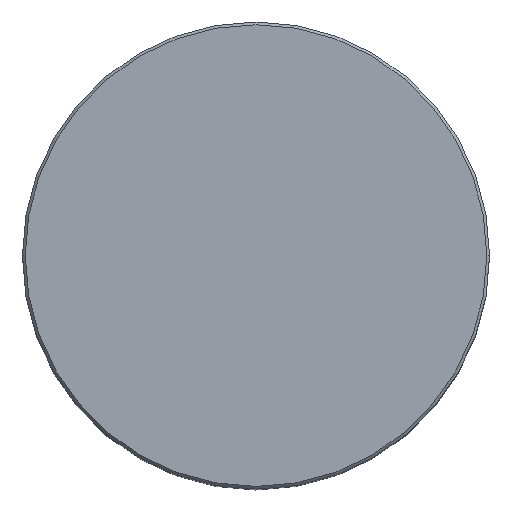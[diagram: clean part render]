
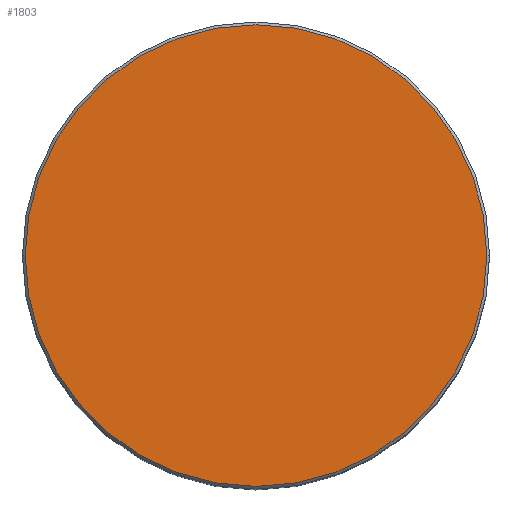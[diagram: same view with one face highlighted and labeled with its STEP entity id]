
A CAD part, top view. The second image highlights one B-rep face of the part: STEP entity #1803.
In plain terms, the highlighted planar face has unit normal (0, 0, 1).
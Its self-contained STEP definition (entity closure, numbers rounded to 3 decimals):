
#125 = CARTESIAN_POINT ( 'NONE',  ( 0., 15.25, -221. ) ) ;
#161 = AXIS2_PLACEMENT_3D ( 'NONE', #125, #713, #882 ) ;
#164 = DIRECTION ( 'NONE',  ( 0., 0., 1. ) ) ;
#172 = DIRECTION ( 'NONE',  ( -1., 0., 0. ) ) ;
#193 = VERTEX_POINT ( 'NONE', #1017 ) ;
#413 = ORIENTED_EDGE ( 'NONE', *, *, #1381, .T. ) ;
#425 = PLANE ( 'NONE',  #161 ) ;
#467 = DIRECTION ( 'NONE',  ( 0., 0., 1. ) ) ;
#632 = CIRCLE ( 'NONE', #1936, 16.8 ) ;
#640 = CARTESIAN_POINT ( 'NONE',  ( 0., 0., -221. ) ) ;
#670 = EDGE_LOOP ( 'NONE', ( #917, #413 ) ) ;
#713 = DIRECTION ( 'NONE',  ( 0., 0., -1. ) ) ;
#882 = DIRECTION ( 'NONE',  ( -1., 0., 0. ) ) ;
#917 = ORIENTED_EDGE ( 'NONE', *, *, #1424, .T. ) ;
#1017 = CARTESIAN_POINT ( 'NONE',  ( -16.8, 0., -221. ) ) ;
#1241 = AXIS2_PLACEMENT_3D ( 'NONE', #1689, #467, #1822 ) ;
#1325 = VERTEX_POINT ( 'NONE', #1809 ) ;
#1381 = EDGE_CURVE ( 'NONE', #1325, #193, #1524, .T. ) ;
#1424 = EDGE_CURVE ( 'NONE', #193, #1325, #632, .T. ) ;
#1524 = CIRCLE ( 'NONE', #1241, 16.8 ) ;
#1689 = CARTESIAN_POINT ( 'NONE',  ( 0., 0., -221. ) ) ;
#1756 = FACE_OUTER_BOUND ( 'NONE', #670, .T. ) ;
#1803 = ADVANCED_FACE ( 'NONE', ( #1756 ), #425, .F. ) ;
#1809 = CARTESIAN_POINT ( 'NONE',  ( 16.8, 0., -221. ) ) ;
#1822 = DIRECTION ( 'NONE',  ( -1., 0., 0. ) ) ;
#1936 = AXIS2_PLACEMENT_3D ( 'NONE', #640, #164, #172 ) ;
